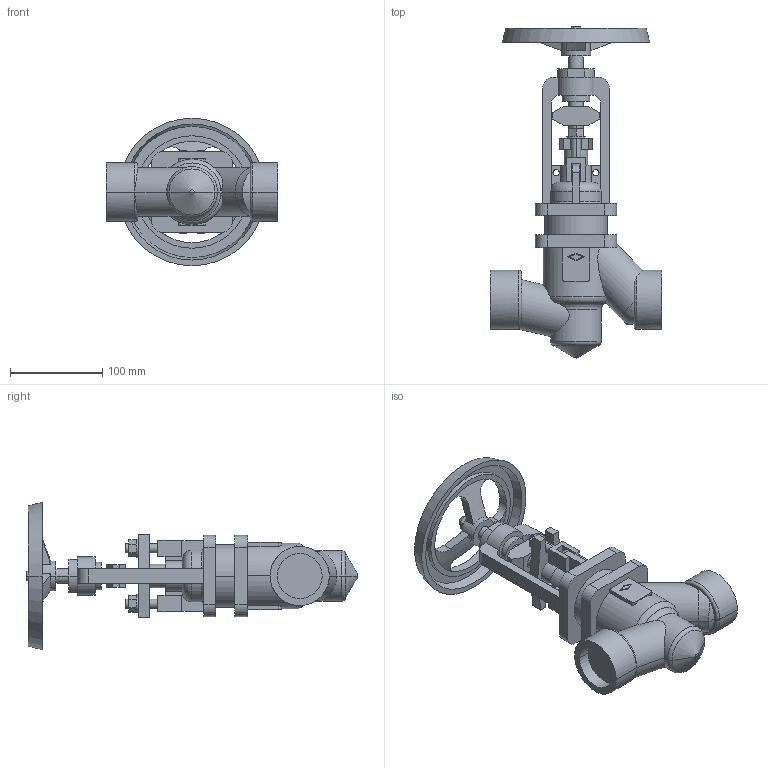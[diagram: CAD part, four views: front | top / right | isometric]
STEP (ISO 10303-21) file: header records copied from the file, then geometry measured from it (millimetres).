
FILE_DESCRIPTION(('OneSpaceDesigner STEP Export'),'2;1');
FILE_NAME('c000004275.stp','2010-05-04T11:19:32',(''),(''),'OneSpace Designer STEP processor for AP214 (Solid Model)','OneSpace Modeling 15.50B 03-Nov-2007 (C) CoCreate Software GmbH','');
FILE_SCHEMA(('AUTOMOTIVE_DESIGN { 1 0 10303 214 1 1 1 1 }'));
Length unit declared in the file: millimetre
Products named in the file (1): 1
Bounding box: 186 x 360.13 x 160 mm (x, y, z)
Volume: 1352410.7 mm3; surface area: 186405.8 mm2
Topology: 1 solids, 1 shells, 288 faces, 759 edges, 495 vertices
Faces by surface type: plane 149, cylinder 95, cone 24, torus 18, sphere 2
Entity records: 11553 total; most frequent: CARTESIAN_POINT 2538, ORIENTED_EDGE 1518, DIRECTION 1248, EDGE_CURVE 759, VERTEX_POINT 495, VECTOR 426, LINE 426, AXIS2_PLACEMENT_3D 411
